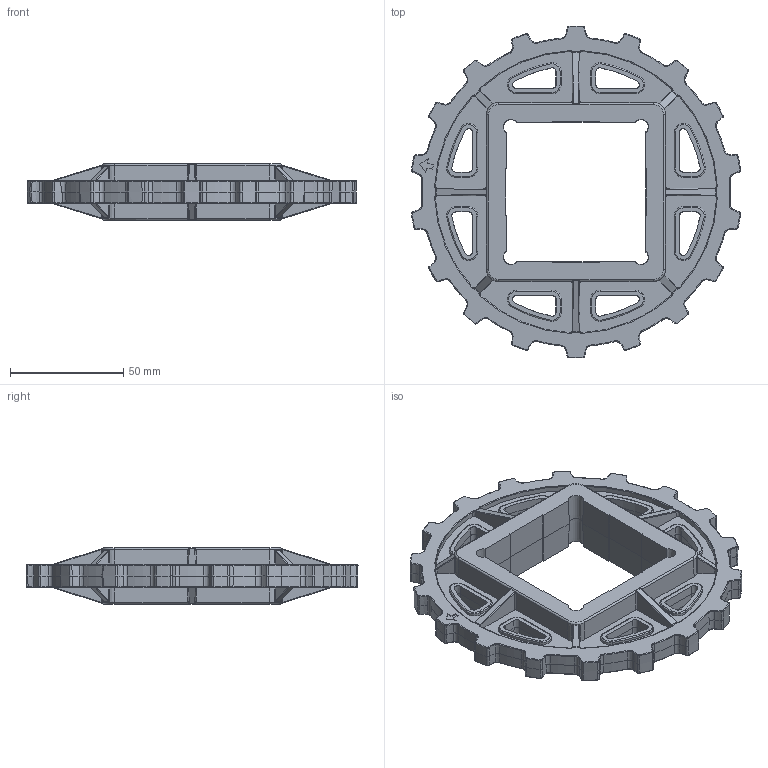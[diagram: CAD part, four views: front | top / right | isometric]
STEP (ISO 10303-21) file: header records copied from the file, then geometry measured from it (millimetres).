
FILE_DESCRIPTION(/* description */ (''),/* implementation_level */ '2;1');
FILE_NAME(/* name */ '502A-HD-18T.stp',/* time_stamp */ '2020-09-01T16:39:27+08:00',/* author */ (''),/* organization */ (''),/* preprocessor_version */ 'ST-DEVELOPER v15',/* originating_system */ 'SIEMENS PLM Software NX 8.5',/* authorisation */ '');
FILE_SCHEMA (('AP203_CONFIGURATION_CONTROLLED_3D_DESIGN_OF_MECHANICAL_PARTS_AND_ASSEMBLIES_MIM_LF { 1 0 10303 403 2 1 2}'));
Products named in the file (1): Admi185462D9ydt6
Bounding box: 145.09 x 146.37 x 24.8 mm (x, y, z)
Volume: 125282.3 mm3; surface area: 47374 mm2
Topology: 1 solids, 1 shells, 1383 faces, 3276 edges, 1916 vertices
Faces by surface type: bspline 376, torus 304, cone 291, plane 214, cylinder 198
Entity records: 51991 total; most frequent: CARTESIAN_POINT 22600, ORIENTED_EDGE 6552, DIRECTION 5809, EDGE_CURVE 3276, AXIS2_PLACEMENT_3D 2440, VERTEX_POINT 1916, EDGE_LOOP 1422, CIRCLE 1416
